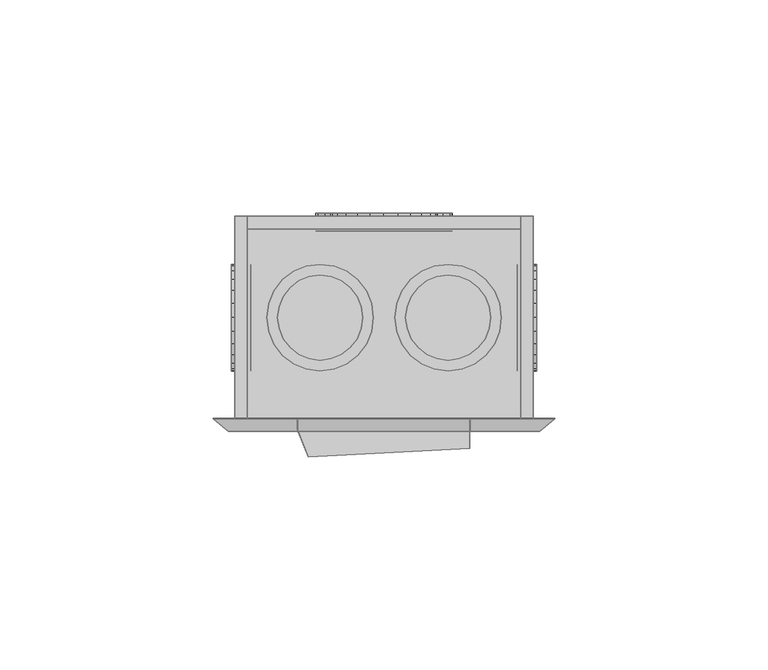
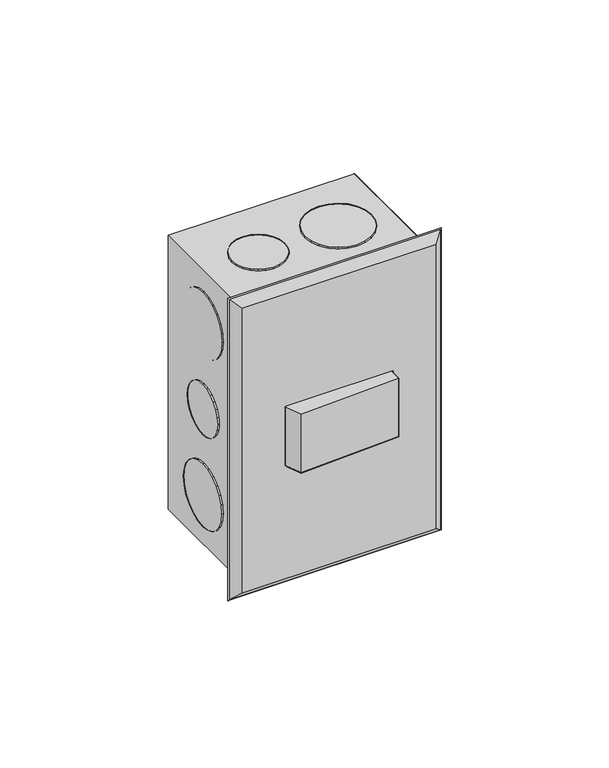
"""IFC4 building model written with IfcOpenShell, lengths in millimetres: proxy geometry,  211081 :  211081."""

from ifc_helpers import new_model, si_unit, origin, place, context, project, spatial, triangles, source, transform, mapped, element, save


def generic_models_a53d9220(model_context):
    return source(origin(), model_context, "Body", "Tessellation", [
        triangles([(16432.3004791, 13148.6997437, 1254.3000378), (16429.2994995, 13148.6997437, 1148.7000154), (16432.3004791, 13148.6997437, 1145.6999805), (16429.2994995, 13148.6997437, 1251.2999302), (16362.3001007, 13148.6997437, 1254.3000378), (16365.2999176, 13148.6997437, 1251.2999302), (16362.3001007, 13148.6997437, 1145.6999805), (16365.2999176, 13148.6997437, 1148.7000154), (16429.2994995, 13196.2003326, 1251.2999302), (16429.2994995, 13196.2003326, 1148.7000154), (16362.3001007, 13196.2003326, 1254.3000378), (16362.3001007, 13196.2003326, 1145.6999805), (16365.2999176, 13196.2003326, 1251.2999302), (16432.3004791, 13196.2003326, 1145.6999805), (16365.2999176, 13196.2003326, 1148.7000154), (16432.3004791, 13196.2003326, 1254.3000378), (16429.2994995, 13193.2005157, 1251.2999302), (16365.2999176, 13193.2005157, 1148.7000154), (16429.2994995, 13193.2005157, 1148.7000154), (16365.2999176, 13193.2005157, 1251.2999302), (16411.1994415, 13192.7005463, 1191.9999887), (16405.2998016, 13192.7005463, 1186.0999855), (16408.5996002, 13192.7005463, 1188.6999722), (16412.8005066, 13192.7005463, 1195.8999687), (16401.5000336, 13192.7005463, 1184.5000105), (16413.3004761, 13192.7005463, 1200.0000092), (16397.3002899, 13192.7005463, 1183.9999683), (16412.8005066, 13192.7005463, 1204.0999769), (16393.2005402, 13192.7005463, 1184.5000105), (16411.1994415, 13192.7005463, 1208.0000296), (16389.2996155, 13192.7005463, 1186.0999855), (16408.5996002, 13192.7005463, 1211.2999735), (16385.9998169, 13192.7005463, 1188.6999722), (16405.2998016, 13192.7005463, 1213.9000328), (16383.4999695, 13192.7005463, 1191.9999887), (16401.5000336, 13192.7005463, 1215.5000078), (16381.9000671, 13192.7005463, 1195.8999687), (16397.3002899, 13192.7005463, 1215.9999773), (16381.3001038, 13192.7005463, 1200.0000092), (16393.2005402, 13192.7005463, 1215.5000078), (16381.9000671, 13192.7005463, 1204.0999769), (16389.2996155, 13192.7005463, 1213.9000328), (16383.4999695, 13192.7005463, 1208.0000296), (16385.9998169, 13192.7005463, 1211.2999735), (16393.2005402, 13196.9002899, 1184.5000105), (16397.3002899, 13196.9002899, 1183.9999683), (16401.5000336, 13196.9002899, 1184.5000105), (16405.2998016, 13196.9002899, 1186.0999855), (16408.5996002, 13196.9002899, 1188.6999722), (16411.1994415, 13196.9002899, 1191.9999887), (16412.8005066, 13196.9002899, 1195.8999687), (16413.3004761, 13196.9002899, 1200.0000092), (16412.8005066, 13196.9002899, 1204.0999769), (16411.1994415, 13196.9002899, 1208.0000296), (16408.5996002, 13196.9002899, 1211.2999735), (16405.2998016, 13196.9002899, 1213.9000328), (16401.5000336, 13196.9002899, 1215.5000078), (16397.3002899, 13196.9002899, 1215.9999773), (16393.2005402, 13196.9002899, 1215.5000078), (16389.2996155, 13196.9002899, 1213.9000328), (16385.9998169, 13196.9002899, 1211.2999735), (16383.4999695, 13196.9002899, 1208.0000296), (16381.9000671, 13196.9002899, 1204.0999769), (16381.3001038, 13196.9002899, 1200.0000092), (16381.9000671, 13196.9002899, 1195.8999687), (16383.4999695, 13196.9002899, 1191.9999887), (16385.9998169, 13196.9002899, 1188.6999722), (16389.2996155, 13196.9002899, 1186.0999855), (16408.1996246, 13192.7005463, 1227.8000565), (16403.5999054, 13192.7005463, 1223.2000465), (16406.1997467, 13192.7005463, 1225.2000698), (16409.3995514, 13192.7005463, 1230.8000187), (16400.6000885, 13192.7005463, 1221.8999805), (16409.799527, 13192.7005463, 1233.9999687), (16397.3002899, 13192.7005463, 1221.500005), (16409.3995514, 13192.7005463, 1237.2000641), (16394.1004852, 13192.7005463, 1221.8999805), (16408.1996246, 13192.7005463, 1240.3000202), (16391.0995056, 13192.7005463, 1223.2000465), (16406.1997467, 13192.7005463, 1242.800013), (16388.4996643, 13192.7005463, 1225.2000698), (16386.4997864, 13192.7005463, 1227.8000565), (16403.5999054, 13192.7005463, 1244.8000362), (16400.6000885, 13192.7005463, 1246.0999569), (16385.2998596, 13192.7005463, 1230.8000187), (16397.3002899, 13192.7005463, 1246.4999325), (16384.7998901, 13192.7005463, 1233.9999687), (16394.1004852, 13192.7005463, 1246.0999569), (16385.2998596, 13192.7005463, 1237.2000641), (16386.4997864, 13192.7005463, 1240.3000202), (16391.0995056, 13192.7005463, 1244.8000362), (16388.4996643, 13192.7005463, 1242.800013), (16385.2998596, 13196.9002899, 1230.8000187), (16386.4997864, 13196.9002899, 1227.8000565), (16388.4996643, 13196.9002899, 1225.2000698), (16391.0995056, 13196.9002899, 1223.2000465), (16394.1004852, 13196.9002899, 1221.8999805), (16397.3002899, 13196.9002899, 1221.500005), (16400.6000885, 13196.9002899, 1221.8999805), (16403.5999054, 13196.9002899, 1223.2000465), (16406.1997467, 13196.9002899, 1225.2000698), (16408.1996246, 13196.9002899, 1227.8000565), (16409.3995514, 13196.9002899, 1230.8000187), (16409.799527, 13196.9002899, 1233.9999687), (16409.3995514, 13196.9002899, 1237.2000641), (16408.1996246, 13196.9002899, 1240.3000202), (16406.1997467, 13196.9002899, 1242.800013), (16403.5999054, 13196.9002899, 1244.8000362), (16400.6000885, 13196.9002899, 1246.0999569), (16397.3002899, 13196.9002899, 1246.4999325), (16394.1004852, 13196.9002899, 1246.0999569), (16391.0995056, 13196.9002899, 1244.8000362), (16388.4996643, 13196.9002899, 1242.800013), (16386.4997864, 13196.9002899, 1240.3000202), (16385.2998596, 13196.9002899, 1237.2000641), (16384.7998901, 13196.9002899, 1233.9999687), (16403.5999054, 13196.9002899, 1155.1999821), (16408.1996246, 13196.9002899, 1159.6999981), (16406.1997467, 13196.9002899, 1157.2000053), (16400.6000885, 13196.9002899, 1153.8999887), (16409.3995514, 13196.9002899, 1162.8000269), (16397.3002899, 13196.9002899, 1153.5000132), (16409.799527, 13196.9002899, 1165.9999769), (16394.1004852, 13196.9002899, 1153.8999887), (16409.3995514, 13196.9002899, 1169.1999996), (16391.0995056, 13196.9002899, 1155.1999821), (16408.1996246, 13196.9002899, 1172.2000345), (16388.4996643, 13196.9002899, 1157.2000053), (16406.1997467, 13196.9002899, 1174.8000212), (16386.4997864, 13196.9002899, 1159.6999981), (16403.5999054, 13196.9002899, 1176.7999718), (16385.2998596, 13196.9002899, 1162.8000269), (16400.6000885, 13196.9002899, 1178.0999651), (16397.3002899, 13196.9002899, 1178.5000134), (16384.7998901, 13196.9002899, 1165.9999769), (16385.2998596, 13196.9002899, 1169.1999996), (16394.1004852, 13196.9002899, 1178.0999651), (16386.4997864, 13196.9002899, 1172.2000345), (16391.0995056, 13196.9002899, 1176.7999718), (16388.4996643, 13196.9002899, 1174.8000212), (16400.6000885, 13192.7005463, 1178.0999651), (16397.3002899, 13192.7005463, 1178.5000134), (16403.5999054, 13192.7005463, 1176.7999718), (16406.1997467, 13192.7005463, 1174.8000212), (16408.1996246, 13192.7005463, 1172.2000345), (16409.3995514, 13192.7005463, 1169.1999996), (16409.799527, 13192.7005463, 1165.9999769), (16409.3995514, 13192.7005463, 1162.8000269), (16408.1996246, 13192.7005463, 1159.6999981), (16406.1997467, 13192.7005463, 1157.2000053), (16403.5999054, 13192.7005463, 1155.1999821), (16400.6000885, 13192.7005463, 1153.8999887), (16397.3002899, 13192.7005463, 1153.5000132), (16394.1004852, 13192.7005463, 1153.8999887), (16391.0995056, 13192.7005463, 1155.1999821), (16388.4996643, 13192.7005463, 1157.2000053), (16386.4997864, 13192.7005463, 1159.6999981), (16385.2998596, 13192.7005463, 1162.8000269), (16384.7998901, 13192.7005463, 1165.9999769), (16385.2998596, 13192.7005463, 1169.1999996), (16386.4997864, 13192.7005463, 1172.2000345), (16388.4996643, 13192.7005463, 1174.8000212), (16391.0995056, 13192.7005463, 1176.7999718), (16394.1004852, 13192.7005463, 1178.0999651), (16428.4995483, 13177.4003174, 1191.3000315), (16428.4995483, 13181.1000916, 1195.0000237), (16428.4995483, 13179.5001892, 1192.9000065), (16428.4995483, 13182.1000305, 1197.4000225), (16428.4995483, 13175.0004639, 1190.3000198), (16428.4995483, 13182.4000122, 1200.0000092), (16428.4995483, 13172.3994598, 1189.9999655), (16428.4995483, 13169.8996124, 1190.3000198), (16428.4995483, 13182.1000305, 1202.5999958), (16428.4995483, 13181.1000916, 1204.9999947), (16428.4995483, 13167.399765, 1191.3000315), (16428.4995483, 13179.5001892, 1207.1000118), (16428.4995483, 13165.3998871, 1192.9000065), (16428.4995483, 13163.7999847, 1195.0000237), (16428.4995483, 13177.4003174, 1208.6999868), (16428.4995483, 13162.8000458, 1197.4000225), (16428.4995483, 13175.0004639, 1209.6999985), (16428.4995483, 13162.4000702, 1200.0000092), (16428.4995483, 13172.3994598, 1209.9999802), (16428.4995483, 13162.8000458, 1202.5999958), (16428.4995483, 13169.8996124, 1209.6999985), (16428.4995483, 13167.399765, 1208.6999868), (16428.4995483, 13163.7999847, 1204.9999947), (16428.4995483, 13165.3998871, 1207.1000118), (16433.1004303, 13172.3994598, 1189.9999655), (16433.1004303, 13175.0004639, 1190.3000198), (16433.1004303, 13169.8996124, 1190.3000198), (16433.1004303, 13167.399765, 1191.3000315), (16433.1004303, 13165.3998871, 1192.9000065), (16433.1004303, 13163.7999847, 1195.0000237), (16433.1004303, 13162.8000458, 1197.4000225), (16433.1004303, 13162.4000702, 1200.0000092), (16433.1004303, 13162.8000458, 1202.5999958), (16433.1004303, 13163.7999847, 1204.9999947), (16433.1004303, 13165.3998871, 1207.1000118), (16433.1004303, 13167.399765, 1208.6999868), (16433.1004303, 13169.8996124, 1209.6999985), (16433.1004303, 13172.3994598, 1209.9999802), (16433.1004303, 13175.0004639, 1209.6999985), (16433.1004303, 13177.4003174, 1208.6999868), (16433.1004303, 13179.5001892, 1207.1000118), (16433.1004303, 13181.1000916, 1204.9999947), (16433.1004303, 13182.1000305, 1202.5999958), (16433.1004303, 13182.4000122, 1200.0000092), (16433.1004303, 13182.1000305, 1197.4000225), (16433.1004303, 13181.1000916, 1195.0000237), (16433.1004303, 13179.5001892, 1192.9000065), (16433.1004303, 13177.4003174, 1191.3000315), (16428.4995483, 13178.700238, 1223.2000465), (16428.4995483, 13183.2999573, 1227.8000565), (16428.4995483, 13181.3000793, 1225.2000698), (16428.4995483, 13175.7004211, 1221.8999805), (16428.4995483, 13184.499884, 1230.8000187), (16428.4995483, 13184.8998596, 1233.9999687), (16428.4995483, 13172.3994598, 1221.500005), (16428.4995483, 13169.1996552, 1221.8999805), (16428.4995483, 13184.499884, 1237.2000641), (16428.4995483, 13183.2999573, 1240.3000202), (16428.4995483, 13166.1998383, 1223.2000465), (16428.4995483, 13163.5999969, 1225.2000698), (16428.4995483, 13181.3000793, 1242.800013), (16428.4995483, 13161.600119, 1227.8000565), (16428.4995483, 13178.700238, 1244.8000362), (16428.4995483, 13160.4001923, 1230.8000187), (16428.4995483, 13175.7004211, 1246.0999569), (16428.4995483, 13159.9002228, 1233.9999687), (16428.4995483, 13172.3994598, 1246.4999325), (16428.4995483, 13160.4001923, 1237.2000641), (16428.4995483, 13169.1996552, 1246.0999569), (16428.4995483, 13161.600119, 1240.3000202), (16428.4995483, 13166.1998383, 1244.8000362), (16428.4995483, 13163.5999969, 1242.800013), (16433.1004303, 13172.3994598, 1221.500005), (16433.1004303, 13175.7004211, 1221.8999805), (16433.1004303, 13169.1996552, 1221.8999805), (16433.1004303, 13166.1998383, 1223.2000465), (16433.1004303, 13163.5999969, 1225.2000698), (16433.1004303, 13161.600119, 1227.8000565), (16433.1004303, 13160.4001923, 1230.8000187), (16433.1004303, 13159.9002228, 1233.9999687), (16433.1004303, 13160.4001923, 1237.2000641), (16433.1004303, 13161.600119, 1240.3000202), (16433.1004303, 13163.5999969, 1242.800013), (16433.1004303, 13166.1998383, 1244.8000362), (16433.1004303, 13169.1996552, 1246.0999569), (16433.1004303, 13172.3994598, 1246.4999325), (16433.1004303, 13175.7004211, 1246.0999569), (16433.1004303, 13178.700238, 1244.8000362), (16433.1004303, 13181.3000793, 1242.800013), (16433.1004303, 13183.2999573, 1240.3000202), (16433.1004303, 13184.499884, 1237.2000641), (16433.1004303, 13184.8998596, 1233.9999687), (16433.1004303, 13184.499884, 1230.8000187), (16433.1004303, 13183.2999573, 1227.8000565), (16433.1004303, 13181.3000793, 1225.2000698), (16433.1004303, 13178.700238, 1223.2000465), (16433.1004303, 13183.2999573, 1159.6999981), (16433.1004303, 13178.700238, 1155.1999821), (16433.1004303, 13181.3000793, 1157.2000053), (16433.1004303, 13184.499884, 1162.8000269), (16433.1004303, 13175.7004211, 1153.8999887), (16433.1004303, 13184.8998596, 1165.9999769), (16433.1004303, 13172.3994598, 1153.5000132), (16433.1004303, 13184.499884, 1169.1999996), (16433.1004303, 13169.1996552, 1153.8999887), (16433.1004303, 13183.2999573, 1172.2000345), (16433.1004303, 13166.1998383, 1155.1999821), (16433.1004303, 13181.3000793, 1174.8000212), (16433.1004303, 13163.5999969, 1157.2000053), (16433.1004303, 13178.700238, 1176.7999718), (16433.1004303, 13161.600119, 1159.6999981), (16433.1004303, 13175.7004211, 1178.0999651), (16433.1004303, 13160.4001923, 1162.8000269), (16433.1004303, 13172.3994598, 1178.5000134), (16433.1004303, 13159.9002228, 1165.9999769), (16433.1004303, 13169.1996552, 1178.0999651), (16433.1004303, 13160.4001923, 1169.1999996), (16433.1004303, 13166.1998383, 1176.7999718), (16433.1004303, 13161.600119, 1172.2000345), (16433.1004303, 13163.5999969, 1174.8000212), (16428.4995483, 13175.7004211, 1178.0999651), (16428.4995483, 13172.3994598, 1178.5000134), (16428.4995483, 13169.1996552, 1178.0999651), (16428.4995483, 13166.1998383, 1176.7999718), (16428.4995483, 13163.5999969, 1174.8000212), (16428.4995483, 13161.600119, 1172.2000345), (16428.4995483, 13160.4001923, 1169.1999996), (16428.4995483, 13159.9002228, 1165.9999769), (16428.4995483, 13160.4001923, 1162.8000269), (16428.4995483, 13161.600119, 1159.6999981), (16428.4995483, 13163.5999969, 1157.2000053), (16428.4995483, 13166.1998383, 1155.1999821), (16428.4995483, 13169.1996552, 1153.8999887), (16428.4995483, 13172.3994598, 1153.5000132), (16428.4995483, 13175.7004211, 1153.8999887), (16428.4995483, 13178.700238, 1155.1999821), (16428.4995483, 13181.3000793, 1157.2000053), (16428.4995483, 13183.2999573, 1159.6999981), (16428.4995483, 13184.499884, 1162.8000269), (16428.4995483, 13184.8998596, 1165.9999769), (16428.4995483, 13184.499884, 1169.1999996), (16428.4995483, 13183.2999573, 1172.2000345), (16428.4995483, 13181.3000793, 1174.8000212), (16428.4995483, 13178.700238, 1176.7999718), (16366.0998688, 13181.1000916, 1195.0000237), (16366.0998688, 13177.4003174, 1191.3000315), (16366.0998688, 13179.5001892, 1192.9000065), (16366.0998688, 13182.1000305, 1197.4000225), (16366.0998688, 13175.0004639, 1190.3000198), (16366.0998688, 13182.4000122, 1200.0000092), (16366.0998688, 13172.3994598, 1189.9999655), (16366.0998688, 13182.1000305, 1202.5999958), (16366.0998688, 13169.8996124, 1190.3000198), (16366.0998688, 13181.1000916, 1204.9999947), (16366.0998688, 13167.399765, 1191.3000315), (16366.0998688, 13179.5001892, 1207.1000118), (16366.0998688, 13165.3998871, 1192.9000065), (16366.0998688, 13177.4003174, 1208.6999868), (16366.0998688, 13163.7999847, 1195.0000237), (16366.0998688, 13175.0004639, 1209.6999985), (16366.0998688, 13162.8000458, 1197.4000225), (16366.0998688, 13162.4000702, 1200.0000092), (16366.0998688, 13172.3994598, 1209.9999802), (16366.0998688, 13169.8996124, 1209.6999985), (16366.0998688, 13162.8000458, 1202.5999958), (16366.0998688, 13167.399765, 1208.6999868), (16366.0998688, 13163.7999847, 1204.9999947), (16366.0998688, 13165.3998871, 1207.1000118), (16361.5001495, 13175.0004639, 1209.6999985), (16361.5001495, 13172.3994598, 1209.9999802), (16361.5001495, 13169.8996124, 1209.6999985), (16361.5001495, 13167.399765, 1208.6999868), (16361.5001495, 13165.3998871, 1207.1000118), (16361.5001495, 13163.7999847, 1204.9999947), (16361.5001495, 13162.8000458, 1202.5999958), (16361.5001495, 13162.4000702, 1200.0000092), (16361.5001495, 13162.8000458, 1197.4000225), (16361.5001495, 13163.7999847, 1195.0000237), (16361.5001495, 13165.3998871, 1192.9000065), (16361.5001495, 13167.399765, 1191.3000315), (16361.5001495, 13169.8996124, 1190.3000198), (16361.5001495, 13172.3994598, 1189.9999655), (16361.5001495, 13175.0004639, 1190.3000198), (16361.5001495, 13177.4003174, 1191.3000315), (16361.5001495, 13179.5001892, 1192.9000065), (16361.5001495, 13181.1000916, 1195.0000237), (16361.5001495, 13182.1000305, 1197.4000225), (16361.5001495, 13182.4000122, 1200.0000092), (16361.5001495, 13182.1000305, 1202.5999958), (16361.5001495, 13181.1000916, 1204.9999947), (16361.5001495, 13179.5001892, 1207.1000118), (16361.5001495, 13177.4003174, 1208.6999868), (16366.0998688, 13183.2999573, 1159.6999981), (16366.0998688, 13178.700238, 1155.1999821), (16366.0998688, 13181.3000793, 1157.2000053), (16366.0998688, 13184.499884, 1162.8000269), (16366.0998688, 13175.7004211, 1153.8999887), (16366.0998688, 13184.8998596, 1165.9999769), (16366.0998688, 13172.3994598, 1153.5000132), (16366.0998688, 13184.499884, 1169.1999996), (16366.0998688, 13169.1996552, 1153.8999887), (16366.0998688, 13183.2999573, 1172.2000345), (16366.0998688, 13166.1998383, 1155.1999821), (16366.0998688, 13181.3000793, 1174.8000212), (16366.0998688, 13163.5999969, 1157.2000053), (16366.0998688, 13178.700238, 1176.7999718), (16366.0998688, 13161.600119, 1159.6999981), (16366.0998688, 13175.7004211, 1178.0999651), (16366.0998688, 13160.4001923, 1162.8000269), (16366.0998688, 13172.3994598, 1178.5000134), (16366.0998688, 13159.9002228, 1165.9999769), (16366.0998688, 13169.1996552, 1178.0999651), (16366.0998688, 13160.4001923, 1169.1999996), (16366.0998688, 13166.1998383, 1176.7999718), (16366.0998688, 13161.600119, 1172.2000345), (16366.0998688, 13163.5999969, 1174.8000212), (16361.5001495, 13175.7004211, 1178.0999651), (16361.5001495, 13172.3994598, 1178.5000134), (16361.5001495, 13169.1996552, 1178.0999651), (16361.5001495, 13166.1998383, 1176.7999718), (16361.5001495, 13163.5999969, 1174.8000212), (16361.5001495, 13161.600119, 1172.2000345), (16361.5001495, 13160.4001923, 1169.1999996), (16361.5001495, 13159.9002228, 1165.9999769), (16361.5001495, 13160.4001923, 1162.8000269), (16361.5001495, 13161.600119, 1159.6999981), (16361.5001495, 13163.5999969, 1157.2000053), (16361.5001495, 13166.1998383, 1155.1999821), (16361.5001495, 13169.1996552, 1153.8999887), (16361.5001495, 13172.3994598, 1153.5000132), (16361.5001495, 13175.7004211, 1153.8999887), (16361.5001495, 13178.700238, 1155.1999821), (16361.5001495, 13181.3000793, 1157.2000053), (16361.5001495, 13183.2999573, 1159.6999981), (16361.5001495, 13184.499884, 1162.8000269), (16361.5001495, 13184.8998596, 1165.9999769), (16361.5001495, 13184.499884, 1169.1999996), (16361.5001495, 13183.2999573, 1172.2000345), (16361.5001495, 13181.3000793, 1174.8000212), (16361.5001495, 13178.700238, 1176.7999718), (16361.5001495, 13178.700238, 1223.2000465), (16361.5001495, 13183.2999573, 1227.8000565), (16361.5001495, 13181.3000793, 1225.2000698), (16361.5001495, 13175.7004211, 1221.8999805), (16361.5001495, 13184.499884, 1230.8000187), (16361.5001495, 13184.8998596, 1233.9999687), (16361.5001495, 13172.3994598, 1221.500005), (16361.5001495, 13169.1996552, 1221.8999805), (16361.5001495, 13184.499884, 1237.2000641), (16361.5001495, 13183.2999573, 1240.3000202), (16361.5001495, 13166.1998383, 1223.2000465), (16361.5001495, 13163.5999969, 1225.2000698), (16361.5001495, 13181.3000793, 1242.800013), (16361.5001495, 13161.600119, 1227.8000565), (16361.5001495, 13178.700238, 1244.8000362), (16361.5001495, 13160.4001923, 1230.8000187), (16361.5001495, 13175.7004211, 1246.0999569), (16361.5001495, 13159.9002228, 1233.9999687), (16361.5001495, 13172.3994598, 1246.4999325), (16361.5001495, 13160.4001923, 1237.2000641), (16361.5001495, 13169.1996552, 1246.0999569), (16361.5001495, 13161.600119, 1240.3000202), (16361.5001495, 13166.1998383, 1244.8000362), (16361.5001495, 13163.5999969, 1242.800013), (16366.0998688, 13172.3994598, 1221.500005), (16366.0998688, 13175.7004211, 1221.8999805), (16366.0998688, 13169.1996552, 1221.8999805), (16366.0998688, 13166.1998383, 1223.2000465), (16366.0998688, 13163.5999969, 1225.2000698), (16366.0998688, 13161.600119, 1227.8000565), (16366.0998688, 13160.4001923, 1230.8000187), (16366.0998688, 13159.9002228, 1233.9999687), (16366.0998688, 13160.4001923, 1237.2000641), (16366.0998688, 13161.600119, 1240.3000202), (16366.0998688, 13163.5999969, 1242.800013), (16366.0998688, 13166.1998383, 1244.8000362), (16366.0998688, 13169.1996552, 1246.0999569), (16366.0998688, 13172.3994598, 1246.4999325), (16366.0998688, 13175.7004211, 1246.0999569), (16366.0998688, 13178.700238, 1244.8000362), (16366.0998688, 13181.3000793, 1242.800013), (16366.0998688, 13183.2999573, 1240.3000202), (16366.0998688, 13184.499884, 1237.2000641), (16366.0998688, 13184.8998596, 1233.9999687), (16366.0998688, 13184.499884, 1230.8000187), (16366.0998688, 13183.2999573, 1227.8000565), (16366.0998688, 13181.3000793, 1225.2000698), (16366.0998688, 13178.700238, 1223.2000465), (16423.1998718, 13178.700238, 1250.9999485), (16418.6001526, 13183.2999573, 1250.9999485), (16421.1999939, 13181.3000793, 1250.9999485), (16424.3997986, 13175.7004211, 1250.9999485), (16415.6003357, 13184.499884, 1250.9999485), (16412.3005371, 13184.8998596, 1250.9999485), (16424.7997742, 13172.3994598, 1250.9999485), (16424.3997986, 13169.1996552, 1250.9999485), (16409.0995697, 13184.499884, 1250.9999485), (16406.0997528, 13183.2999573, 1250.9999485), (16423.1998718, 13166.1998383, 1250.9999485), (16421.1999939, 13163.5999969, 1250.9999485), (16403.4999115, 13181.3000793, 1250.9999485), (16401.5000336, 13178.700238, 1250.9999485), (16418.6001526, 13161.600119, 1250.9999485), (16415.6003357, 13160.4001923, 1250.9999485), (16400.3001068, 13175.7004211, 1250.9999485), (16412.3005371, 13159.9002228, 1250.9999485), (16399.8001373, 13172.3994598, 1250.9999485), (16409.0995697, 13160.4001923, 1250.9999485), (16400.3001068, 13169.1996552, 1250.9999485), (16401.5000336, 13166.1998383, 1250.9999485), (16406.0997528, 13161.600119, 1250.9999485), (16403.4999115, 13163.5999969, 1250.9999485), (16412.3005371, 13184.8998596, 1255.1999828), (16409.0995697, 13184.499884, 1255.1999828), (16415.6003357, 13184.499884, 1255.1999828), (16418.6001526, 13183.2999573, 1255.1999828), (16421.1999939, 13181.3000793, 1255.1999828), (16423.1998718, 13178.700238, 1255.1999828), (16424.3997986, 13175.7004211, 1255.1999828), (16424.7997742, 13172.3994598, 1255.1999828), (16424.3997986, 13169.1996552, 1255.1999828), (16423.1998718, 13166.1998383, 1255.1999828), (16421.1999939, 13163.5999969, 1255.1999828), (16418.6001526, 13161.600119, 1255.1999828), (16415.6003357, 13160.4001923, 1255.1999828), (16412.3005371, 13159.9002228, 1255.1999828), (16409.0995697, 13160.4001923, 1255.1999828), (16406.0997528, 13161.600119, 1255.1999828), (16403.4999115, 13163.5999969, 1255.1999828), (16401.5000336, 13166.1998383, 1255.1999828), (16400.3001068, 13169.1996552, 1255.1999828), (16399.8001373, 13172.3994598, 1255.1999828), (16400.3001068, 13175.7004211, 1255.1999828), (16401.5000336, 13178.700238, 1255.1999828), (16403.4999115, 13181.3000793, 1255.1999828), (16406.0997528, 13183.2999573, 1255.1999828), (16390.9995117, 13177.4003174, 1250.9999485), (16387.2997375, 13181.1000916, 1250.9999485), (16389.3996094, 13179.5001892, 1250.9999485), (16384.899884, 13182.1000305, 1250.9999485), (16391.9994507, 13175.0004639, 1250.9999485), (16382.3000427, 13182.4000122, 1250.9999485), (16392.2994324, 13172.3994598, 1250.9999485), (16391.9994507, 13169.8996124, 1250.9999485), (16379.7002014, 13182.1000305, 1250.9999485), (16377.3003479, 13181.1000916, 1250.9999485), (16390.9995117, 13167.399765, 1250.9999485), (16375.30047, 13179.5001892, 1250.9999485), (16389.3996094, 13165.3998871, 1250.9999485), (16387.2997375, 13163.7999847, 1250.9999485), (16373.7005676, 13177.4003174, 1250.9999485), (16372.6994659, 13175.0004639, 1250.9999485), (16384.899884, 13162.8000458, 1250.9999485), (16382.3000427, 13162.4000702, 1250.9999485), (16372.2994904, 13172.3994598, 1250.9999485), (16379.7002014, 13162.8000458, 1250.9999485), (16372.6994659, 13169.8996124, 1250.9999485), (16377.3003479, 13163.7999847, 1250.9999485), (16373.7005676, 13167.399765, 1250.9999485), (16375.30047, 13165.3998871, 1250.9999485), (16379.7002014, 13182.1000305, 1255.1999828), (16377.3003479, 13181.1000916, 1255.1999828), (16382.3000427, 13182.4000122, 1255.1999828), (16384.899884, 13182.1000305, 1255.1999828), (16387.2997375, 13181.1000916, 1255.1999828), (16389.3996094, 13179.5001892, 1255.1999828), (16390.9995117, 13177.4003174, 1255.1999828), (16391.9994507, 13175.0004639, 1255.1999828), (16392.2994324, 13172.3994598, 1255.1999828), (16391.9994507, 13169.8996124, 1255.1999828), (16390.9995117, 13167.399765, 1255.1999828), (16389.3996094, 13165.3998871, 1255.1999828), (16387.2997375, 13163.7999847, 1255.1999828), (16384.899884, 13162.8000458, 1255.1999828), (16382.3000427, 13162.4000702, 1255.1999828), (16379.7002014, 13162.8000458, 1255.1999828), (16377.3003479, 13163.7999847, 1255.1999828), (16375.30047, 13165.3998871, 1255.1999828), (16373.7005676, 13167.399765, 1255.1999828), (16372.6994659, 13169.8996124, 1255.1999828), (16372.2994904, 13172.3994598, 1255.1999828), (16372.6994659, 13175.0004639, 1255.1999828), (16373.7005676, 13177.4003174, 1255.1999828), (16375.30047, 13179.5001892, 1255.1999828), (16421.0000061, 13177.4003174, 1144.8000355), (16417.3002319, 13181.1000916, 1144.8000355), (16419.4001038, 13179.5001892, 1144.8000355), (16414.9003784, 13182.1000305, 1144.8000355), (16421.9999451, 13175.0004639, 1144.8000355), (16412.3005371, 13182.4000122, 1144.8000355), (16422.2999268, 13172.3994598, 1144.8000355), (16421.9999451, 13169.8996124, 1144.8000355), (16409.6995331, 13182.1000305, 1144.8000355), (16407.2996796, 13181.1000916, 1144.8000355), (16421.0000061, 13167.399765, 1144.8000355), (16405.2998016, 13179.5001892, 1144.8000355), (16419.4001038, 13165.3998871, 1144.8000355), (16417.3002319, 13163.7999847, 1144.8000355), (16403.6998993, 13177.4003174, 1144.8000355), (16402.6999603, 13175.0004639, 1144.8000355), (16414.9003784, 13162.8000458, 1144.8000355), (16412.3005371, 13162.4000702, 1144.8000355), (16402.2999847, 13172.3994598, 1144.8000355), (16409.6995331, 13162.8000458, 1144.8000355), (16402.6999603, 13169.8996124, 1144.8000355), (16407.2996796, 13163.7999847, 1144.8000355), (16403.6998993, 13167.399765, 1144.8000355), (16405.2998016, 13165.3998871, 1144.8000355), (16414.9003784, 13182.1000305, 1149.099991), (16412.3005371, 13182.4000122, 1149.099991), (16417.3002319, 13181.1000916, 1149.099991), (16419.4001038, 13179.5001892, 1149.099991), (16421.0000061, 13177.4003174, 1149.099991), (16421.9999451, 13175.0004639, 1149.099991), (16422.2999268, 13172.3994598, 1149.099991), (16421.9999451, 13169.8996124, 1149.099991), (16421.0000061, 13167.399765, 1149.099991), (16419.4001038, 13165.3998871, 1149.099991), (16417.3002319, 13163.7999847, 1149.099991), (16414.9003784, 13162.8000458, 1149.099991), (16412.3005371, 13162.4000702, 1149.099991), (16409.6995331, 13162.8000458, 1149.099991), (16407.2996796, 13163.7999847, 1149.099991), (16405.2998016, 13165.3998871, 1149.099991), (16403.6998993, 13167.399765, 1149.099991), (16402.6999603, 13169.8996124, 1149.099991), (16402.2999847, 13172.3994598, 1149.099991), (16402.6999603, 13175.0004639, 1149.099991), (16403.6998993, 13177.4003174, 1149.099991), (16405.2998016, 13179.5001892, 1149.099991), (16407.2996796, 13181.1000916, 1149.099991), (16409.6995331, 13182.1000305, 1149.099991), (16393.2005402, 13178.700238, 1144.8000355), (16388.5996582, 13183.2999573, 1144.8000355), (16391.1994995, 13181.3000793, 1144.8000355), (16394.4004669, 13175.7004211, 1144.8000355), (16385.5998413, 13184.499884, 1144.8000355), (16382.3000427, 13184.8998596, 1144.8000355), (16394.8004425, 13172.3994598, 1144.8000355), (16394.4004669, 13169.1996552, 1144.8000355), (16379.100238, 13184.499884, 1144.8000355), (16376.1004211, 13183.2999573, 1144.8000355), (16393.2005402, 13166.1998383, 1144.8000355), (16391.1994995, 13163.5999969, 1144.8000355), (16373.5005798, 13181.3000793, 1144.8000355), (16371.4995392, 13178.700238, 1144.8000355), (16388.5996582, 13161.600119, 1144.8000355), (16385.5998413, 13160.4001923, 1144.8000355), (16370.2996124, 13175.7004211, 1144.8000355), (16382.3000427, 13159.9002228, 1144.8000355), (16369.7996429, 13172.3994598, 1144.8000355), (16379.100238, 13160.4001923, 1144.8000355), (16370.2996124, 13169.1996552, 1144.8000355), (16371.4995392, 13166.1998383, 1144.8000355), (16376.1004211, 13161.600119, 1144.8000355), (16373.5005798, 13163.5999969, 1144.8000355), (16379.100238, 13184.499884, 1149.099991), (16376.1004211, 13183.2999573, 1149.099991), (16382.3000427, 13184.8998596, 1149.099991), (16385.5998413, 13184.499884, 1149.099991), (16388.5996582, 13183.2999573, 1149.099991), (16391.1994995, 13181.3000793, 1149.099991), (16393.2005402, 13178.700238, 1149.099991), (16394.4004669, 13175.7004211, 1149.099991), (16394.8004425, 13172.3994598, 1149.099991), (16394.4004669, 13169.1996552, 1149.099991), (16393.2005402, 13166.1998383, 1149.099991), (16391.1994995, 13163.5999969, 1149.099991), (16388.5996582, 13161.600119, 1149.099991), (16385.5998413, 13160.4001923, 1149.099991), (16382.3000427, 13159.9002228, 1149.099991), (16379.100238, 13160.4001923, 1149.099991), (16376.1004211, 13161.600119, 1149.099991), (16373.5005798, 13163.5999969, 1149.099991), (16371.4995392, 13166.1998383, 1149.099991), (16370.2996124, 13169.1996552, 1149.099991), (16369.7996429, 13172.3994598, 1149.099991), (16370.2996124, 13175.7004211, 1149.099991), (16371.4995392, 13178.700238, 1149.099991), (16373.5005798, 13181.3000793, 1149.099991), (16357.3004059, 13148.6997437, 1139.9999651), (16417.5002197, 13148.6997437, 1188.2999966), (16437.300174, 13148.6997437, 1139.9999651), (16377.1003601, 13148.6997437, 1188.2999966), (16357.3004059, 13148.6997437, 1259.9999805), (16377.1003601, 13148.6997437, 1211.7000217), (16437.300174, 13148.6997437, 1259.9999805), (16417.5002197, 13148.6997437, 1211.7000217), (16377.1003601, 13145.6999268, 1188.2999966), (16377.1003601, 13145.6999268, 1211.7000217), (16417.5002197, 13145.6999268, 1188.2999966), (16417.5002197, 13145.6999268, 1211.7000217), (16433.8003876, 13145.6999268, 1143.4999695), (16433.8003876, 13145.6999268, 1256.5000488), (16360.8001923, 13145.6999268, 1143.4999695), (16360.8001923, 13145.6999268, 1256.5000488), (16417.4002258, 13141.7001709, 1188.1000088), (16377.0003662, 13148.6997437, 1188.1000088), (16417.4002258, 13148.6997437, 1188.1000088), (16379.6002075, 13139.8002869, 1188.1000088), (16377.0003662, 13146.1998962, 1188.1000088), (16417.4002258, 13148.6997437, 1211.500034), (16377.0003662, 13148.6997437, 1211.500034), (16417.4002258, 13141.7001709, 1211.500034), (16379.6002075, 13139.8002869, 1211.500034), (16377.0003662, 13146.1998962, 1211.500034)], [[1, 2, 3], [2, 1, 4], [5, 4, 1], [4, 5, 6], [3, 2, 7], [7, 2, 8], [7, 8, 6], [7, 6, 5], [2, 9, 10], [9, 2, 4], [7, 11, 12], [11, 7, 5], [4, 13, 9], [13, 4, 6], [3, 12, 14], [12, 3, 7], [13, 8, 15], [8, 13, 6], [16, 3, 14], [3, 16, 1], [15, 2, 10], [2, 15, 8], [11, 1, 16], [1, 11, 5], [12, 10, 14], [10, 12, 15], [11, 15, 12], [15, 11, 13], [14, 10, 16], [16, 10, 9], [16, 9, 13], [16, 13, 11], [17, 18, 19], [18, 17, 20], [18, 13, 15], [13, 18, 20], [19, 15, 10], [15, 19, 18], [9, 19, 10], [19, 9, 17], [13, 17, 9], [17, 13, 20], [15, 9, 10], [9, 15, 13], [21, 22, 23], [22, 21, 24], [25, 22, 24], [25, 24, 26], [27, 25, 26], [27, 26, 28], [29, 27, 28], [29, 28, 30], [31, 29, 30], [31, 30, 32], [31, 32, 33], [33, 32, 34], [33, 34, 35], [35, 34, 36], [35, 36, 37], [37, 36, 38], [37, 38, 39], [39, 38, 40], [39, 40, 41], [41, 40, 42], [41, 42, 43], [43, 42, 44], [27, 45, 46], [45, 27, 29], [25, 46, 47], [46, 25, 27], [22, 47, 48], [47, 22, 25], [23, 48, 49], [48, 23, 22], [50, 23, 49], [23, 50, 21], [51, 21, 50], [21, 51, 24], [52, 24, 51], [24, 52, 26], [53, 26, 52], [26, 53, 28], [54, 28, 53], [28, 54, 30], [55, 30, 54], [30, 55, 32], [56, 32, 55], [32, 56, 34], [57, 34, 56], [34, 57, 36], [58, 36, 57], [36, 58, 38], [59, 38, 58], [38, 59, 40], [60, 40, 59], [40, 60, 42], [61, 42, 60], [42, 61, 44], [43, 61, 62], [61, 43, 44], [41, 62, 63], [62, 41, 43], [39, 63, 64], [63, 39, 41], [37, 64, 65], [64, 37, 39], [35, 65, 66], [65, 35, 37], [33, 66, 67], [66, 33, 35], [31, 67, 68], [67, 31, 33], [29, 68, 45], [68, 29, 31], [48, 50, 49], [50, 48, 47], [51, 50, 47], [51, 47, 46], [52, 51, 46], [52, 46, 45], [53, 52, 45], [53, 45, 68], [54, 53, 68], [54, 68, 67], [54, 67, 55], [55, 67, 66], [55, 66, 56], [56, 66, 65], [56, 65, 57], [57, 65, 64], [57, 64, 58], [58, 64, 63], [58, 63, 59], [59, 63, 62], [59, 62, 60], [60, 62, 61], [69, 70, 71], [70, 69, 72], [73, 70, 72], [73, 72, 74], [75, 73, 74], [75, 74, 76], [77, 75, 76], [77, 76, 78], [79, 77, 78], [79, 78, 80], [81, 79, 80], [81, 80, 82], [82, 80, 83], [82, 83, 84], [82, 84, 85], [85, 84, 86], [85, 86, 87], [87, 86, 88], [87, 88, 89], [89, 88, 90], [90, 88, 91], [90, 91, 92], [82, 93, 94], [93, 82, 85], [81, 94, 95], [94, 81, 82], [79, 95, 96], [95, 79, 81], [77, 96, 97], [96, 77, 79], [75, 97, 98], [97, 75, 77], [73, 98, 99], [98, 73, 75], [70, 99, 100], [99, 70, 73], [71, 100, 101], [100, 71, 70], [102, 71, 101], [71, 102, 69], [103, 69, 102], [69, 103, 72], [104, 72, 103], [72, 104, 74], [105, 74, 104], [74, 105, 76], [106, 76, 105], [76, 106, 78], [107, 78, 106], [78, 107, 80], [108, 80, 107], [80, 108, 83], [109, 83, 108], [83, 109, 84], [110, 84, 109], [84, 110, 86], [111, 86, 110], [86, 111, 88], [112, 88, 111], [88, 112, 91], [113, 91, 112], [91, 113, 92], [90, 113, 114], [113, 90, 92], [89, 114, 115], [114, 89, 90], [87, 115, 116], [115, 87, 89], [85, 116, 93], [116, 85, 87], [100, 102, 101], [102, 100, 99], [103, 102, 99], [103, 99, 98], [104, 103, 98], [104, 98, 97], [105, 104, 97], [106, 105, 97], [106, 97, 96], [106, 96, 95], [106, 95, 107], [107, 95, 94], [107, 94, 108], [108, 94, 93], [108, 93, 109], [109, 93, 116], [109, 116, 110], [110, 116, 115], [110, 115, 111], [111, 115, 114], [111, 114, 112], [112, 114, 113], [117, 118, 119], [118, 117, 120], [121, 118, 120], [121, 120, 122], [123, 121, 122], [123, 122, 124], [125, 123, 124], [125, 124, 126], [127, 125, 126], [127, 126, 128], [127, 128, 129], [129, 128, 130], [129, 130, 131], [131, 130, 132], [131, 132, 133], [133, 132, 134], [134, 132, 135], [134, 135, 136], [134, 136, 137], [137, 136, 138], [137, 138, 139], [139, 138, 140], [134, 141, 133], [141, 134, 142], [133, 143, 131], [143, 133, 141], [131, 144, 129], [144, 131, 143], [129, 145, 127], [145, 129, 144], [127, 146, 125], [146, 127, 145], [125, 147, 123], [147, 125, 146], [123, 148, 121], [148, 123, 147], [121, 149, 118], [149, 121, 148], [118, 150, 119], [150, 118, 149], [150, 117, 119], [117, 150, 151], [151, 120, 117], [120, 151, 152], [152, 122, 120], [122, 152, 153], [153, 124, 122], [124, 153, 154], [154, 126, 124], [126, 154, 155], [155, 128, 126], [128, 155, 156], [156, 130, 128], [130, 156, 157], [157, 132, 130], [132, 157, 158], [158, 135, 132], [135, 158, 159], [159, 136, 135], [136, 159, 160], [160, 138, 136], [138, 160, 161], [161, 140, 138], [140, 161, 162], [140, 163, 139], [163, 140, 162], [139, 164, 137], [164, 139, 163], [137, 142, 134], [142, 137, 164], [149, 151, 150], [151, 149, 148], [152, 151, 148], [153, 152, 148], [153, 148, 147], [153, 147, 146], [154, 153, 146], [154, 146, 145], [155, 154, 145], [155, 145, 144], [156, 155, 144], [156, 144, 157], [157, 144, 143], [157, 143, 141], [157, 141, 158], [158, 141, 142], [158, 142, 159], [159, 142, 164], [159, 164, 160], [160, 164, 163], [160, 163, 161], [161, 163, 162], [165, 166, 167], [168, 166, 165], [168, 165, 169], [170, 168, 169], [170, 169, 171], [170, 171, 172], [173, 170, 172], [174, 173, 172], [174, 172, 175], [176, 174, 175], [176, 175, 177], [176, 177, 178], [176, 178, 179], [179, 178, 180], [179, 180, 181], [181, 180, 182], [181, 182, 183], [183, 182, 184], [183, 184, 185], [185, 184, 186], [186, 184, 187], [186, 187, 188], [189, 169, 190], [169, 189, 171], [191, 171, 189], [171, 191, 172], [192, 172, 191], [172, 192, 175], [193, 175, 192], [175, 193, 177], [194, 177, 193], [177, 194, 178], [195, 178, 194], [178, 195, 180], [196, 180, 195], [180, 196, 182], [197, 182, 196], [182, 197, 184], [198, 184, 197], [184, 198, 187], [199, 187, 198], [187, 199, 188], [186, 199, 200], [199, 186, 188], [185, 200, 201], [200, 185, 186], [183, 201, 202], [201, 183, 185], [181, 202, 203], [202, 181, 183], [179, 203, 204], [203, 179, 181], [176, 204, 205], [204, 176, 179], [174, 205, 206], [205, 174, 176], [173, 206, 207], [206, 173, 174], [170, 207, 208], [207, 170, 173], [168, 208, 209], [208, 168, 170], [166, 209, 210], [209, 166, 168], [167, 210, 211], [210, 167, 166], [212, 167, 211], [167, 212, 165], [190, 165, 212], [165, 190, 169], [210, 212, 211], [212, 210, 209], [190, 212, 209], [190, 209, 208], [189, 190, 208], [189, 208, 207], [191, 189, 207], [191, 207, 206], [192, 191, 206], [192, 206, 205], [192, 205, 193], [193, 205, 204], [193, 204, 194], [194, 204, 203], [194, 203, 195], [195, 203, 196], [196, 203, 202], [196, 202, 201], [196, 201, 197], [197, 201, 200], [197, 200, 198], [198, 200, 199], [213, 214, 215], [214, 213, 216], [217, 214, 216], [218, 217, 216], [218, 216, 219], [218, 219, 220], [221, 218, 220], [222, 221, 220], [222, 220, 223], [222, 223, 224], [222, 224, 225], [225, 224, 226], [225, 226, 227], [227, 226, 228], [227, 228, 229], [229, 228, 230], [229, 230, 231], [231, 230, 232], [231, 232, 233], [233, 232, 234], [233, 234, 235], [235, 234, 236], [237, 216, 238], [216, 237, 219], [239, 219, 237], [219, 239, 220], [240, 220, 239], [220, 240, 223], [241, 223, 240], [223, 241, 224], [242, 224, 241], [224, 242, 226], [243, 226, 242], [226, 243, 228], [244, 228, 243], [228, 244, 230], [245, 230, 244], [230, 245, 232], [246, 232, 245], [232, 246, 234], [247, 234, 246], [234, 247, 236], [235, 247, 248], [247, 235, 236], [233, 248, 249], [248, 233, 235], [231, 249, 250], [249, 231, 233], [229, 250, 251], [250, 229, 231], [227, 251, 252], [251, 227, 229], [225, 252, 253], [252, 225, 227], [222, 253, 254], [253, 222, 225], [221, 254, 255], [254, 221, 222], [218, 255, 256], [255, 218, 221], [217, 256, 257], [256, 217, 218], [214, 257, 258], [257, 214, 217], [215, 258, 259], [258, 215, 214], [260, 215, 259], [215, 260, 213], [238, 213, 260], [213, 238, 216], [258, 260, 259], [260, 258, 257], [238, 260, 257], [238, 257, 256], [237, 238, 256], [237, 256, 255], [239, 237, 255], [239, 255, 254], [240, 239, 254], [240, 254, 253], [241, 240, 253], [241, 253, 252], [241, 252, 242], [242, 252, 251], [242, 251, 243], [243, 251, 244], [244, 251, 250], [244, 250, 249], [244, 249, 245], [245, 249, 246], [246, 249, 248], [246, 248, 247], [261, 262, 263], [262, 261, 264], [265, 262, 264], [265, 264, 266], [267, 265, 266], [267, 266, 268], [269, 267, 268], [269, 268, 270], [271, 269, 270], [271, 270, 272], [273, 271, 272], [273, 272, 274], [273, 274, 275], [275, 274, 276], [275, 276, 277], [277, 276, 278], [277, 278, 279], [279, 278, 280], [279, 280, 281], [281, 280, 282], [281, 282, 283], [283, 282, 284], [285, 278, 276], [278, 285, 286], [286, 280, 278], [280, 286, 287], [287, 282, 280], [282, 287, 288], [288, 284, 282], [284, 288, 289], [284, 290, 283], [290, 284, 289], [283, 291, 281], [291, 283, 290], [281, 292, 279], [292, 281, 291], [279, 293, 277], [293, 279, 292], [277, 294, 275], [294, 277, 293], [275, 295, 273], [295, 275, 294], [273, 296, 271], [296, 273, 295], [271, 297, 269], [297, 271, 296], [269, 298, 267], [298, 269, 297], [267, 299, 265], [299, 267, 298], [265, 300, 262], [300, 265, 299], [262, 301, 263], [301, 262, 300], [301, 261, 263], [261, 301, 302], [302, 264, 261], [264, 302, 303], [303, 266, 264], [266, 303, 304], [304, 268, 266], [268, 304, 305], [305, 270, 268], [270, 305, 306], [306, 272, 270], [272, 306, 307], [307, 274, 272], [274, 307, 308], [308, 276, 274], [276, 308, 285], [300, 302, 301], [302, 300, 299], [303, 302, 299], [303, 299, 298], [304, 303, 298], [304, 298, 297], [305, 304, 297], [305, 297, 296], [306, 305, 296], [306, 296, 295], [306, 295, 307], [307, 295, 294], [307, 294, 308], [308, 294, 293], [308, 293, 285], [285, 293, 286], [286, 293, 292], [286, 292, 291], [286, 291, 287], [287, 291, 288], [288, 291, 290], [288, 290, 289], [309, 310, 311], [310, 309, 312], [313, 310, 312], [313, 312, 314], [315, 313, 314], [315, 314, 316], [317, 315, 316], [317, 316, 318], [319, 317, 318], [319, 318, 320], [319, 320, 321], [321, 320, 322], [321, 322, 323], [323, 322, 324], [323, 324, 325], [325, 324, 326], [326, 324, 327], [326, 327, 328], [326, 328, 329], [329, 328, 330], [329, 330, 331], [331, 330, 332], [333, 327, 324], [327, 333, 334], [334, 328, 327], [328, 334, 335], [335, 330, 328], [330, 335, 336], [336, 332, 330], [332, 336, 337], [332, 338, 331], [338, 332, 337], [331, 339, 329], [339, 331, 338], [329, 340, 326], [340, 329, 339], [326, 341, 325], [341, 326, 340], [325, 342, 323], [342, 325, 341], [323, 343, 321], [343, 323, 342], [321, 344, 319], [344, 321, 343], [319, 345, 317], [345, 319, 344], [317, 346, 315], [346, 317, 345], [315, 347, 313], [347, 315, 346], [313, 348, 310], [348, 313, 347], [310, 349, 311], [349, 310, 348], [349, 309, 311], [309, 349, 350], [350, 312, 309], [312, 350, 351], [351, 314, 312], [314, 351, 352], [352, 316, 314], [316, 352, 353], [353, 318, 316], [318, 353, 354], [354, 320, 318], [320, 354, 355], [355, 322, 320], [322, 355, 356], [356, 324, 322], [324, 356, 333], [348, 350, 349], [351, 350, 348], [351, 348, 347], [352, 351, 347], [352, 347, 346], [352, 346, 345], [353, 352, 345], [354, 353, 345], [354, 345, 344], [355, 354, 344], [355, 344, 343], [355, 343, 342], [355, 342, 356], [356, 342, 341], [356, 341, 333], [333, 341, 340], [333, 340, 334], [334, 340, 339], [334, 339, 335], [335, 339, 336], [336, 339, 338], [336, 338, 337], [357, 358, 359], [358, 357, 360], [361, 358, 360], [361, 360, 362], [363, 361, 362], [363, 362, 364], [365, 363, 364], [365, 364, 366], [367, 365, 366], [367, 366, 368], [369, 367, 368], [369, 368, 370], [369, 370, 371], [371, 370, 372], [371, 372, 373], [373, 372, 374], [373, 374, 375], [375, 374, 376], [375, 376, 377], [377, 376, 378], [377, 378, 379], [379, 378, 380], [381, 374, 372], [374, 381, 382], [382, 376, 374], [376, 382, 383], [383, 378, 376], [378, 383, 384], [384, 380, 378], [380, 384, 385], [380, 386, 379], [386, 380, 385], [379, 387, 377], [387, 379, 386], [377, 388, 375], [388, 377, 387], [375, 389, 373], [389, 375, 388], [373, 390, 371], [390, 373, 389], [371, 391, 369], [391, 371, 390], [369, 392, 367], [392, 369, 391], [367, 393, 365], [393, 367, 392], [365, 394, 363], [394, 365, 393], [363, 395, 361], [395, 363, 394], [361, 396, 358], [396, 361, 395], [358, 397, 359], [397, 358, 396], [397, 357, 359], [357, 397, 398], [398, 360, 357], [360, 398, 399], [399, 362, 360], [362, 399, 400], [400, 364, 362], [364, 400, 401], [401, 366, 364], [366, 401, 402], [402, 368, 366], [368, 402, 403], [403, 370, 368], [370, 403, 404], [404, 372, 370], [372, 404, 381], [396, 398, 397], [398, 396, 395], [399, 398, 395], [399, 395, 394], [400, 399, 394], [400, 394, 393], [401, 400, 393], [401, 393, 392], [402, 401, 392], [402, 392, 391], [402, 391, 403], [403, 391, 390], [403, 390, 404], [404, 390, 389], [404, 389, 381], [381, 389, 382], [382, 389, 388], [382, 388, 387], [382, 387, 383], [383, 387, 384], [384, 387, 386], [384, 386, 385], [405, 406, 407], [406, 405, 408], [409, 406, 408], [410, 409, 408], [410, 408, 411], [410, 411, 412], [413, 410, 412], [414, 413, 412], [414, 412, 415], [414, 415, 416], [414, 416, 417], [417, 416, 418], [417, 418, 419], [419, 418, 420], [419, 420, 421], [421, 420, 422], [421, 422, 423], [423, 422, 424], [423, 424, 425], [425, 424, 426], [425, 426, 427], [427, 426, 428], [429, 408, 430], [408, 429, 411], [431, 411, 429], [411, 431, 412], [432, 412, 431], [412, 432, 415], [433, 415, 432], [415, 433, 416], [434, 416, 433], [416, 434, 418], [435, 418, 434], [418, 435, 420], [436, 420, 435], [420, 436, 422], [437, 422, 436], [422, 437, 424], [438, 424, 437], [424, 438, 426], [439, 426, 438], [426, 439, 428], [427, 439, 440], [439, 427, 428], [425, 440, 441], [440, 425, 427], [423, 441, 442], [441, 423, 425], [421, 442, 443], [442, 421, 423], [419, 443, 444], [443, 419, 421], [417, 444, 445], [444, 417, 419], [414, 445, 446], [445, 414, 417], [413, 446, 447], [446, 413, 414], [410, 447, 448], [447, 410, 413], [409, 448, 449], [448, 409, 410], [406, 449, 450], [449, 406, 409], [407, 450, 451], [450, 407, 406], [452, 407, 451], [407, 452, 405], [430, 405, 452], [405, 430, 408], [450, 452, 451], [452, 450, 449], [430, 452, 449], [430, 449, 448], [429, 430, 448], [429, 448, 447], [431, 429, 447], [431, 447, 446], [432, 431, 446], [432, 446, 445], [433, 432, 445], [433, 445, 444], [433, 444, 434], [434, 444, 443], [434, 443, 435], [435, 443, 436], [436, 443, 442], [436, 442, 441], [436, 441, 437], [437, 441, 438], [438, 441, 440], [438, 440, 439], [453, 454, 455], [454, 453, 456], [457, 454, 456], [458, 457, 456], [458, 456, 459], [458, 459, 460], [461, 458, 460], [462, 461, 460], [462, 460, 463], [462, 463, 464], [462, 464, 465], [465, 464, 466], [466, 464, 467], [466, 467, 468], [466, 468, 469], [469, 468, 470], [469, 470, 471], [471, 470, 472], [471, 472, 473], [473, 472, 474], [474, 472, 475], [474, 475, 476], [461, 477, 458], [477, 461, 478], [458, 479, 457], [479, 458, 477], [457, 480, 454], [480, 457, 479], [454, 481, 455], [481, 454, 480], [481, 453, 455], [453, 481, 482], [482, 456, 453], [456, 482, 483], [483, 459, 456], [459, 483, 484], [484, 460, 459], [460, 484, 485], [485, 463, 460], [463, 485, 486], [486, 464, 463], [464, 486, 487], [487, 467, 464], [467, 487, 488], [488, 468, 467], [468, 488, 489], [489, 470, 468], [470, 489, 490], [490, 472, 470], [472, 490, 491], [491, 475, 472], [475, 491, 492], [492, 476, 475], [476, 492, 493], [476, 494, 474], [494, 476, 493], [474, 495, 473], [495, 474, 494], [473, 496, 471], [496, 473, 495], [471, 497, 469], [497, 471, 496], [469, 498, 466], [498, 469, 497], [466, 499, 465], [499, 466, 498], [465, 500, 462], [500, 465, 499], [462, 478, 461], [478, 462, 500], [480, 482, 481], [483, 482, 480], [483, 480, 479], [483, 479, 477], [484, 483, 477], [485, 484, 477], [485, 477, 478], [485, 478, 500], [486, 485, 500], [487, 486, 500], [487, 500, 499], [487, 499, 498], [487, 498, 488], [488, 498, 489], [489, 498, 497], [489, 497, 490], [490, 497, 496], [490, 496, 491], [491, 496, 495], [491, 495, 494], [491, 494, 492], [492, 494, 493], [501, 502, 503], [504, 502, 501], [504, 501, 505], [506, 504, 505], [506, 505, 507], [506, 507, 508], [509, 506, 508], [510, 509, 508], [510, 508, 511], [512, 510, 511], [512, 511, 513], [512, 513, 514], [512, 514, 515], [515, 514, 516], [516, 514, 517], [516, 517, 518], [516, 518, 519], [519, 518, 520], [519, 520, 521], [521, 520, 522], [521, 522, 523], [523, 522, 524], [510, 525, 509], [525, 510, 526], [509, 527, 506], [527, 509, 525], [506, 528, 504], [528, 506, 527], [504, 529, 502], [529, 504, 528], [502, 530, 503], [530, 502, 529], [530, 501, 503], [501, 530, 531], [531, 505, 501], [505, 531, 532], [532, 507, 505], [507, 532, 533], [533, 508, 507], [508, 533, 534], [534, 511, 508], [511, 534, 535], [535, 513, 511], [513, 535, 536], [536, 514, 513], [514, 536, 537], [537, 517, 514], [517, 537, 538], [538, 518, 517], [518, 538, 539], [539, 520, 518], [520, 539, 540], [540, 522, 520], [522, 540, 541], [541, 524, 522], [524, 541, 542], [524, 543, 523], [543, 524, 542], [523, 544, 521], [544, 523, 543], [521, 545, 519], [545, 521, 544], [519, 546, 516], [546, 519, 545], [516, 547, 515], [547, 516, 546], [515, 548, 512], [548, 515, 547], [512, 526, 510], [526, 512, 548], [529, 531, 530], [531, 529, 528], [532, 531, 528], [532, 528, 527], [533, 532, 527], [534, 533, 527], [534, 527, 525], [534, 525, 526], [535, 534, 526], [535, 526, 548], [535, 548, 536], [536, 548, 537], [537, 548, 547], [537, 547, 546], [537, 546, 538], [538, 546, 539], [539, 546, 545], [539, 545, 540], [540, 545, 544], [540, 544, 541], [541, 544, 543], [541, 543, 542], [549, 550, 551], [552, 550, 549], [552, 549, 553], [554, 552, 553], [554, 553, 555], [554, 555, 556], [557, 554, 556], [558, 557, 556], [558, 556, 559], [560, 558, 559], [560, 559, 561], [560, 561, 562], [560, 562, 563], [563, 562, 564], [564, 562, 565], [564, 565, 566], [564, 566, 567], [567, 566, 568], [567, 568, 569], [569, 568, 570], [569, 570, 571], [571, 570, 572], [554, 573, 552], [573, 554, 574], [552, 575, 550], [575, 552, 573], [550, 576, 551], [576, 550, 575], [576, 549, 551], [549, 576, 577], [577, 553, 549], [553, 577, 578], [578, 555, 553], [555, 578, 579], [579, 556, 555], [556, 579, 580], [580, 559, 556], [559, 580, 581], [581, 561, 559], [561, 581, 582], [582, 562, 561], [562, 582, 583], [583, 565, 562], [565, 583, 584], [584, 566, 565], [566, 584, 585], [585, 568, 566], [568, 585, 586], [586, 570, 568], [570, 586, 587], [587, 572, 570], [572, 587, 588], [572, 589, 571], [589, 572, 588], [571, 590, 569], [590, 571, 589], [569, 591, 567], [591, 569, 590], [567, 592, 564], [592, 567, 591], [564, 593, 563], [593, 564, 592], [563, 594, 560], [594, 563, 593], [560, 595, 558], [595, 560, 594], [558, 596, 557], [596, 558, 595], [557, 574, 554], [574, 557, 596], [575, 577, 576], [577, 575, 573], [578, 577, 573], [578, 573, 574], [579, 578, 574], [580, 579, 574], [580, 574, 596], [580, 596, 595], [581, 580, 595], [581, 595, 594], [581, 594, 582], [582, 594, 583], [583, 594, 593], [583, 593, 592], [583, 592, 584], [584, 592, 585], [585, 592, 591], [585, 591, 586], [586, 591, 590], [586, 590, 587], [587, 590, 589], [587, 589, 588], [597, 598, 599], [598, 597, 600], [601, 598, 600], [602, 601, 600], [602, 600, 603], [602, 603, 604], [605, 602, 604], [606, 605, 604], [606, 604, 607], [606, 607, 608], [606, 608, 609], [609, 608, 610], [610, 608, 611], [610, 611, 612], [610, 612, 613], [613, 612, 614], [613, 614, 615], [615, 614, 616], [615, 616, 617], [617, 616, 618], [618, 616, 619], [618, 619, 620], [606, 621, 605], [621, 606, 622], [605, 623, 602], [623, 605, 621], [602, 624, 601], [624, 602, 623], [601, 625, 598], [625, 601, 624], [598, 626, 599], [626, 598, 625], [626, 597, 599], [597, 626, 627], [627, 600, 597], [600, 627, 628], [628, 603, 600], [603, 628, 629], [629, 604, 603], [604, 629, 630], [630, 607, 604], [607, 630, 631], [631, 608, 607], [608, 631, 632], [632, 611, 608], [611, 632, 633], [633, 612, 611], [612, 633, 634], [634, 614, 612], [614, 634, 635], [635, 616, 614], [616, 635, 636], [636, 619, 616], [619, 636, 637], [637, 620, 619], [620, 637, 638], [620, 639, 618], [639, 620, 638], [618, 640, 617], [640, 618, 639], [617, 641, 615], [641, 617, 640], [615, 642, 613], [642, 615, 641], [613, 643, 610], [643, 613, 642], [610, 644, 609], [644, 610, 643], [609, 622, 606], [622, 609, 644], [625, 627, 626], [628, 627, 625], [628, 625, 624], [628, 624, 623], [629, 628, 623], [630, 629, 623], [630, 623, 621], [630, 621, 622], [631, 630, 622], [632, 631, 622], [632, 622, 644], [632, 644, 643], [632, 643, 633], [633, 643, 634], [634, 643, 642], [634, 642, 635], [635, 642, 641], [635, 641, 636], [636, 641, 640], [636, 640, 639], [636, 639, 637], [637, 639, 638], [645, 646, 647], [646, 645, 648], [649, 648, 645], [648, 649, 650], [647, 646, 651], [651, 646, 652], [651, 652, 650], [651, 650, 649], [650, 653, 648], [653, 650, 654], [648, 655, 646], [655, 648, 653], [655, 652, 646], [652, 655, 656], [656, 650, 652], [650, 656, 654], [651, 657, 647], [657, 651, 658], [647, 657, 645], [645, 657, 659], [660, 645, 659], [645, 660, 649], [651, 660, 658], [649, 660, 651], [658, 655, 657], [655, 658, 656], [654, 656, 658], [654, 658, 660], [655, 659, 657], [659, 655, 653], [659, 653, 660], [660, 653, 654], [661, 662, 663], [662, 661, 664], [662, 664, 665], [662, 666, 663], [666, 662, 667], [666, 661, 663], [661, 666, 668], [668, 664, 661], [664, 668, 669], [664, 670, 665], [670, 664, 669], [665, 667, 662], [667, 665, 670], [667, 668, 666], [668, 667, 669], [669, 667, 670]], closed=False),
    ])


if __name__ == "__main__":
    model = new_model("IFC4")
    model_context = context("Model", 3, world=origin())
    ifc_project = project(units=[si_unit("LENGTHUNIT", "METRE", prefix="MILLI")], contexts=[model_context])
    site = spatial("IfcSite", under=ifc_project)
    building = spatial("IfcBuilding", under=site)
    placement = place(None, origin())
    generic_models_shape = generic_models_a53d9220(model_context)
    element("IfcBuildingElementProxy", 1, Name=" 211081 :  211081", ObjectType=" 211081 :  211081", at=placement, inside=building, context=model_context, shape_type="MappedRepresentation", body=[
        mapped(generic_models_shape, transform((0.0, 0.0, 0.0), x_axis=(1.0, 0.0, 0.0), y_axis=(0.0, 1.0, 0.0), z_axis=(0.0, 0.0, 1.0))),
    ])
    save(model, "model.ifc")
